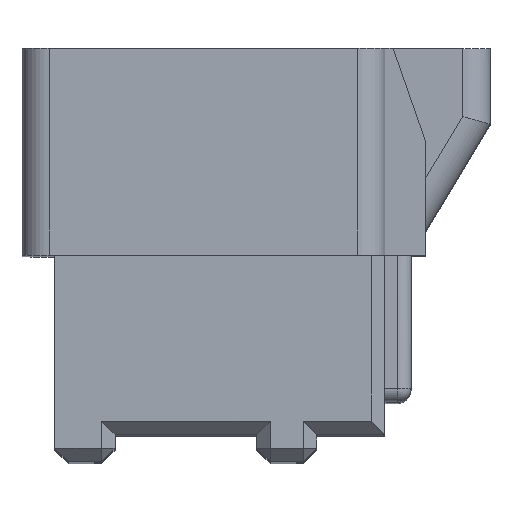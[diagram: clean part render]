
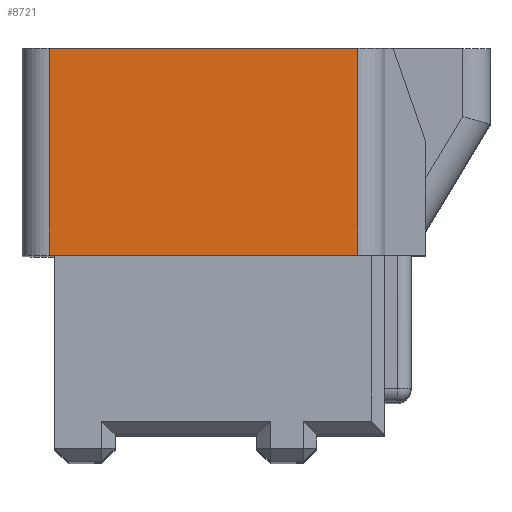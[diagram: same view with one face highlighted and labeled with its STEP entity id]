
A CAD part, top view. The second image highlights one B-rep face of the part: STEP entity #8721.
In plain terms, the highlighted planar face has unit normal (0, 0, 1).
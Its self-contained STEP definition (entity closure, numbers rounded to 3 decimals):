
#119 = DIRECTION ( 'NONE',  ( 1., 0., 0. ) ) ;
#391 = LINE ( 'NONE', #27699, #19122 ) ;
#1373 = CARTESIAN_POINT ( 'NONE',  ( -2.478, 3.27, 6.35 ) ) ;
#1794 = ORIENTED_EDGE ( 'NONE', *, *, #10236, .T. ) ;
#3491 = LINE ( 'NONE', #25389, #8486 ) ;
#3607 = CARTESIAN_POINT ( 'NONE',  ( -2.478, -0.53, 6.35 ) ) ;
#3636 = CARTESIAN_POINT ( 'NONE',  ( 3.192, 3.27, 6.35 ) ) ;
#4975 = AXIS2_PLACEMENT_3D ( 'NONE', #11279, #20243, #119 ) ;
#5313 = EDGE_CURVE ( 'NONE', #5394, #23009, #391, .T. ) ;
#5394 = VERTEX_POINT ( 'NONE', #26068 ) ;
#5438 = LINE ( 'NONE', #23511, #21000 ) ;
#5792 = DIRECTION ( 'NONE',  ( -1., 0., 0. ) ) ;
#5829 = LINE ( 'NONE', #3636, #20079 ) ;
#5974 = DIRECTION ( 'NONE',  ( 0., 1., 0. ) ) ;
#6570 = VERTEX_POINT ( 'NONE', #18931 ) ;
#6650 = EDGE_CURVE ( 'NONE', #23751, #6570, #3491, .T. ) ;
#8486 = VECTOR ( 'NONE', #21279, 1000. ) ;
#8721 = ADVANCED_FACE ( 'NONE', ( #20687 ), #8805, .T. ) ;
#8805 = PLANE ( 'NONE',  #4975 ) ;
#9672 = EDGE_CURVE ( 'NONE', #23009, #23751, #5438, .T. ) ;
#10236 = EDGE_CURVE ( 'NONE', #6570, #5394, #5829, .T. ) ;
#11279 = CARTESIAN_POINT ( 'NONE',  ( 0., 0., 6.35 ) ) ;
#14407 = DIRECTION ( 'NONE',  ( 0., -1., 0. ) ) ;
#17792 = ORIENTED_EDGE ( 'NONE', *, *, #9672, .T. ) ;
#18931 = CARTESIAN_POINT ( 'NONE',  ( 3.192, -0.53, 6.35 ) ) ;
#19122 = VECTOR ( 'NONE', #5792, 1000. ) ;
#20079 = VECTOR ( 'NONE', #5974, 1000. ) ;
#20243 = DIRECTION ( 'NONE',  ( 0., 0., 1. ) ) ;
#20687 = FACE_OUTER_BOUND ( 'NONE', #21666, .T. ) ;
#21000 = VECTOR ( 'NONE', #14407, 1000. ) ;
#21279 = DIRECTION ( 'NONE',  ( 1., 0., 0. ) ) ;
#21666 = EDGE_LOOP ( 'NONE', ( #26606, #17792, #22796, #1794 ) ) ;
#22796 = ORIENTED_EDGE ( 'NONE', *, *, #6650, .T. ) ;
#23009 = VERTEX_POINT ( 'NONE', #1373 ) ;
#23511 = CARTESIAN_POINT ( 'NONE',  ( -2.478, -0.53, 6.35 ) ) ;
#23751 = VERTEX_POINT ( 'NONE', #3607 ) ;
#25389 = CARTESIAN_POINT ( 'NONE',  ( -2.978, -0.53, 6.35 ) ) ;
#26068 = CARTESIAN_POINT ( 'NONE',  ( 3.192, 3.27, 6.35 ) ) ;
#26606 = ORIENTED_EDGE ( 'NONE', *, *, #5313, .T. ) ;
#27699 = CARTESIAN_POINT ( 'NONE',  ( 5.622, 3.27, 6.35 ) ) ;
